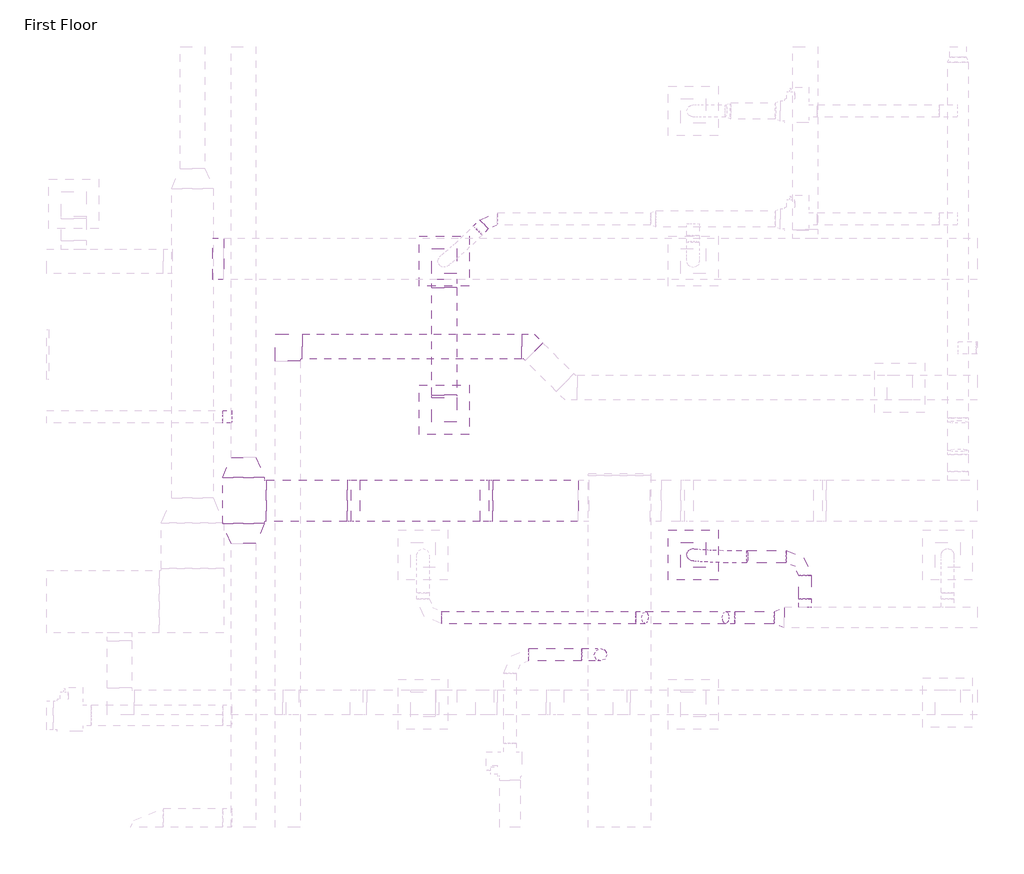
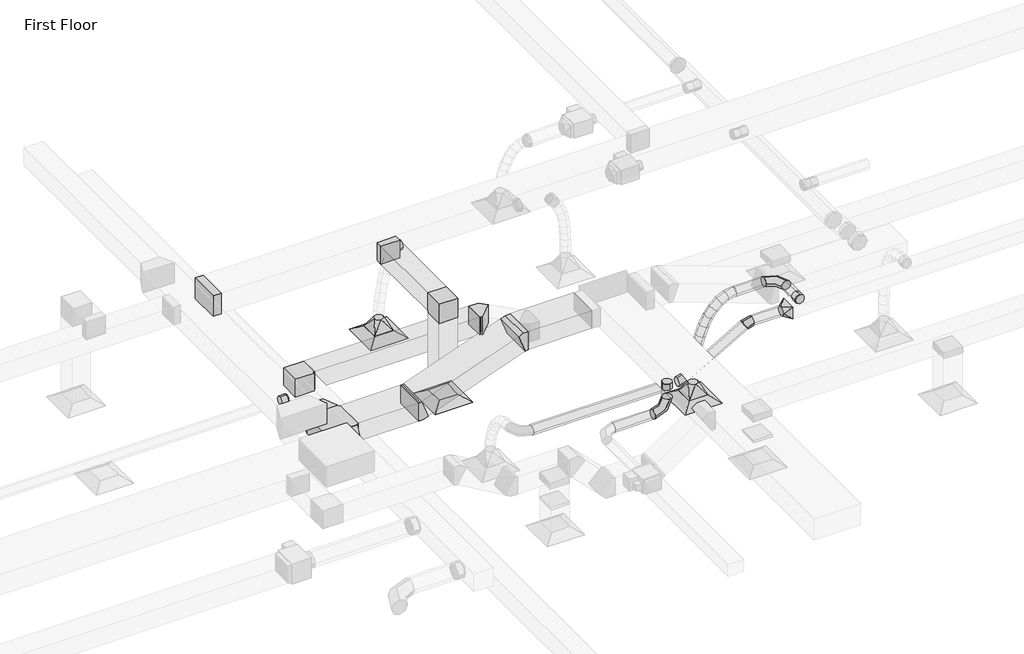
# One storey, part 40 of 61: 21 duct fittings, 15 duct segments, 3 air terminals.
"""IFC4 building model written with IfcOpenShell, lengths in millimetres."""

from ifc_helpers import new_model, si_unit, point, frame, frame_2d, origin, place, context, project, spatial, polyline, circle_curve, ellipse_curve, trimmed, segment, composite_curve, outline, extrude, transform, mapped, element, save
from ifc_brep_helpers import plane_surface, cylinder_surface, advanced_brep
from components import m_exhaust_grill_er_600_x_600_face_300_x_300_connection_ff221211, m_rectangular_elbow_mitered_standard_b81e202c, m_rectangular_elbow_mitered_standard_8eee5933, m_rectangular_elbow_mitered_standard_04b63b93, m_rectangular_takeoff_standard_c00386d1, m_rectangular_takeoff_standard_f515ab57, m_rectangular_tee_standard_99a5f8b8, m_rectangular_transition_angle_45_degree_742563a0, m_rectangular_transition_angle_45_degree_78177127, m_rectangular_to_round_transition_angle_45_degree_8f201c83, m_rectangular_to_round_transition_angle_45_degree_c3b12eae, m_round_elbow_1_5_d_fa134dda, m_round_elbow_1_5_d_2e586196, m_round_elbow_1_5_d_5294a869, m_round_takeoff_standard_d02f3bf7, m_round_takeoff_standard_2721f8a4, m_round_takeoff_standard_a4207b6c

model = new_model("IFC4")

# Units and contexts
model_context = context("Model", 3, world=origin())
ifc_project = project(units=[si_unit("LENGTHUNIT", "METRE", prefix="MILLI")], contexts=[model_context])

# Site, building, storey
site = spatial("IfcSite", under=ifc_project)
building = spatial("IfcBuilding", under=site)
storey = spatial("IfcBuildingStorey", under=building, Name="First Floor", Elevation=0.0)

# Air terminals
placement = place(None, origin())
m_exhaust_grill_er_600_x_600_face_300_x_300_connection_shape = m_exhaust_grill_er_600_x_600_face_300_x_300_connection_ff221211(model_context)
element("IfcAirTerminal", 1, ObjectType="M_Return Register : RR-600 x 600 Face 300 x 300 Connection", at=placement, inside=storey, context=model_context, shape_type="MappedRepresentation", body=[
    mapped(m_exhaust_grill_er_600_x_600_face_300_x_300_connection_shape, transform((-37103.6005714, 45392.7806178, 2680.0), x_axis=(1.0, 0.0, 0.0), y_axis=(0.0, 1.0, 0.0), z_axis=(0.0, 0.0, 1.0))),
])
element("IfcAirTerminal", 2, ObjectType="M_Supply Diffuser : SD-600 x 600 Face 300 x 300 Connection", at=placement, inside=storey, context=model_context, shape_type="MappedRepresentation", body=[
    mapped(m_exhaust_grill_er_600_x_600_face_300_x_300_connection_shape, transform((-37103.6005714, 47182.8147474, 2680.0), x_axis=(1.0, 0.0, 0.0), y_axis=(0.0, 1.0, 0.0), z_axis=(0.0, 0.0, 1.0))),
])
element("IfcAirTerminal", 3, ObjectType="M_Supply Diffuser : SD-600 x 600 Face 300 x 300 Connection", at=placement, inside=storey, context=model_context, shape_type="MappedRepresentation", body=[
    mapped(m_exhaust_grill_er_600_x_600_face_300_x_300_connection_shape, transform((-34106.7085824, 43646.5953777, 2680.0), x_axis=(1.0, 0.0, 0.0), y_axis=(0.0, 1.0, 0.0), z_axis=(0.0, 0.0, 1.0))),
])

# Duct fittings
m_rectangular_elbow_mitered_standard_shape = m_rectangular_elbow_mitered_standard_b81e202c(model_context)
element("IfcDuctFitting", 4, ObjectType="M_Rectangular Elbow - Mitered : Standard", at=placement, inside=storey, context=model_context, shape_type="MappedRepresentation", body=[
    mapped(m_rectangular_elbow_mitered_standard_shape, transform((-36081.3696001, 46153.353423, 3200.0), x_axis=(-0.7071067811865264, 0.7071067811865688, 0.0), y_axis=(-0.7071067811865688, -0.7071067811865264, 0.0), z_axis=(0.0, 0.0, 1.0))),
])
m_rectangular_elbow_mitered_standard_2_shape = m_rectangular_elbow_mitered_standard_8eee5933(model_context)
element("IfcDuctFitting", 5, ObjectType="M_Rectangular Elbow - Mitered : Standard", at=placement, inside=storey, context=model_context, shape_type="MappedRepresentation", body=[
    mapped(m_rectangular_elbow_mitered_standard_2_shape, transform((-37103.6005714, 45392.7806178, 4259.5), x_axis=(0.0, 0.0, 1.0), y_axis=(0.0, 1.0, 0.0), z_axis=(-1.0, 0.0, 0.0))),
])
element("IfcDuctFitting", 6, ObjectType="M_Rectangular Elbow - Mitered : Standard", at=placement, inside=storey, context=model_context, shape_type="MappedRepresentation", body=[
    mapped(m_rectangular_elbow_mitered_standard_2_shape, transform((-38985.9613903, 46153.353423, 3200.0), x_axis=(-1.0, 0.0, 0.0), y_axis=(0.0, -1.0, 0.0), z_axis=(0.0, 0.0, 1.0))),
])
m_rectangular_elbow_mitered_standard_3_shape = m_rectangular_elbow_mitered_standard_04b63b93(model_context)
element("IfcDuctFitting", 7, ObjectType="M_Rectangular Elbow - Mitered : Standard", at=placement, inside=storey, context=model_context, shape_type="MappedRepresentation", body=[
    mapped(m_rectangular_elbow_mitered_standard_3_shape, transform((-38217.6187402, 44299.674982, 3659.5), x_axis=(1.0, 0.0, 0.0), y_axis=(0.0, 0.0, 1.0), z_axis=(0.0, -1.0, 0.0))),
])
element("IfcDuctFitting", 8, ObjectType="M_Rectangular Elbow - Mitered : Standard", at=placement, inside=storey, context=model_context, shape_type="MappedRepresentation", body=[
    mapped(m_rectangular_elbow_mitered_standard_3_shape, transform((-36569.1322885, 44299.674982, 4259.5), x_axis=(0.9396926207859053, 0.0, 0.3420201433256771), y_axis=(0.3420201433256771, 0.0, -0.9396926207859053), z_axis=(0.0, 1.0, 0.0))),
])
m_rectangular_takeoff_standard_shape = m_rectangular_takeoff_standard_c00386d1(model_context)
element("IfcDuctFitting", 9, ObjectType="M_Rectangular Takeoff : Standard", at=placement, inside=storey, context=model_context, shape_type="MappedRepresentation", body=[
    mapped(m_rectangular_takeoff_standard_shape, transform((-37103.6005714, 46961.3321421, 4259.5), x_axis=(0.0, -1.0, 0.0), y_axis=(-1.0, 0.0, 0.0), z_axis=(0.0, 0.0, -1.0))),
])
m_rectangular_takeoff_standard_2_shape = m_rectangular_takeoff_standard_f515ab57(model_context)
element("IfcDuctFitting", 10, ObjectType="M_Rectangular Takeoff : Standard", at=placement, inside=storey, context=model_context, shape_type="MappedRepresentation", body=[
    mapped(m_rectangular_takeoff_standard_2_shape, transform((-39881.0542232, 47211.3321421, 4259.5), x_axis=(1.0, 0.0, 0.0), y_axis=(0.0, -1.0, 0.0), z_axis=(0.0, 0.0, -1.0))),
])
m_rectangular_tee_standard_shape = m_rectangular_tee_standard_99a5f8b8(model_context)
element("IfcDuctFitting", 11, ObjectType="M_Rectangular Tee : Standard", at=placement, inside=storey, context=model_context, shape_type="MappedRepresentation", body=[
    mapped(m_rectangular_tee_standard_shape, transform((-39517.6187402, 44299.674982, 3659.5), x_axis=(0.0, 1.0, 0.0), y_axis=(-1.0, 0.0, 0.0), z_axis=(0.0, 0.0, 1.0))),
])
m_rectangular_transition_angle_45_degree_shape = m_rectangular_transition_angle_45_degree_742563a0(model_context)
element("IfcDuctFitting", 12, ObjectType="M_Rectangular Transition - Angle : 45 Degree", at=placement, inside=storey, context=model_context, shape_type="MappedRepresentation", body=[
    mapped(m_rectangular_transition_angle_45_degree_shape, transform((-39517.6187402, 44816.0963383, 3659.5), x_axis=(0.0, -1.0, 0.0), y_axis=(1.0, 0.0, 0.0), z_axis=(0.0, 0.0, 1.0))),
])
m_rectangular_transition_angle_45_degree_2_shape = m_rectangular_transition_angle_45_degree_78177127(model_context)
element("IfcDuctFitting", 13, ObjectType="M_Rectangular Transition - Angle : 45 Degree", at=placement, inside=storey, context=model_context, shape_type="MappedRepresentation", body=[
    mapped(m_rectangular_transition_angle_45_degree_2_shape, transform((-39517.6187402, 44024.674982, 3659.5), x_axis=(0.0, -1.0, 0.0), y_axis=(1.0, 0.0, 0.0), z_axis=(0.0, 0.0, 1.0))),
])
m_rectangular_to_round_transition_angle_45_degree_shape = m_rectangular_to_round_transition_angle_45_degree_8f201c83(model_context)
element("IfcDuctFitting", 14, ObjectType="M_Rectangular to Round Transition - Angle : 45 Degree", at=placement, inside=storey, context=model_context, shape_type="MappedRepresentation", body=[
    mapped(m_rectangular_to_round_transition_angle_45_degree_shape, transform((-37103.6005714, 47182.8147474, 2781.6), x_axis=(0.0, 0.0, 1.0), y_axis=(1.0, 0.0, 0.0), z_axis=(0.0, 1.0, 0.0))),
])
element("IfcDuctFitting", 15, ObjectType="M_Rectangular to Round Transition - Angle : 45 Degree", at=placement, inside=storey, context=model_context, shape_type="MappedRepresentation", body=[
    mapped(m_rectangular_to_round_transition_angle_45_degree_shape, transform((-34106.7085824, 43646.5953777, 2781.6), x_axis=(0.0, 0.0, 1.0), y_axis=(1.0, 0.0, 0.0), z_axis=(0.0, 1.0, 0.0))),
])
m_rectangular_to_round_transition_angle_45_degree_2_shape = m_rectangular_to_round_transition_angle_45_degree_c3b12eae(model_context)
element("IfcDuctFitting", 16, ObjectType="M_Rectangular to Round Transition - Angle : 45 Degree", at=placement, inside=storey, context=model_context, shape_type="MappedRepresentation", body=[
    mapped(m_rectangular_to_round_transition_angle_45_degree_2_shape, transform((-33011.0242719, 42891.9406833, 4279.0), x_axis=(-1.0, 0.0, 0.0), y_axis=(0.0, -1.0, 0.0), z_axis=(0.0, 0.0, 1.0))),
])
m_round_elbow_1_5_d_shape = m_round_elbow_1_5_d_fa134dda(model_context)
element("IfcDuctFitting", 17, ObjectType="M_Round Elbow : 1.5 D", at=placement, inside=storey, context=model_context, shape_type="MappedRepresentation", body=[
    mapped(m_round_elbow_1_5_d_shape, transform((-36556.9170835, 47690.9394014, 3669.2), x_axis=(-1.0, 0.0, 0.0), y_axis=(0.0, -1.0, 0.0), z_axis=(0.0, 0.0, 1.0))),
])
m_round_elbow_1_5_d_2_shape = m_round_elbow_1_5_d_2e586196(model_context)
element("IfcDuctFitting", 18, ObjectType="M_Round Elbow : 1.5 D", at=placement, inside=storey, context=model_context, shape_type="MappedRepresentation", body=[
    mapped(m_round_elbow_1_5_d_2_shape, transform((-35219.7384631, 42443.2870823, 3609.5), x_axis=(1.0, 0.0, 0.0), y_axis=(0.0, 0.0, 1.0), z_axis=(0.0, -1.0, 0.0))),
])
element("IfcDuctFitting", 19, ObjectType="M_Round Elbow : 1.5 D", at=placement, inside=storey, context=model_context, shape_type="MappedRepresentation", body=[
    mapped(m_round_elbow_1_5_d_2_shape, transform((-32760.7363091, 43623.6954017, 4279.0), x_axis=(0.0, 1.0, 0.0), y_axis=(-1.0, 0.0, 0.0), z_axis=(0.0, 0.0, 1.0))),
])
m_round_elbow_1_5_d_3_shape = m_round_elbow_1_5_d_5294a869(model_context)
element("IfcDuctFitting", 20, ObjectType="M_Round Elbow : 1.5 D", at=placement, inside=storey, context=model_context, shape_type="MappedRepresentation", body=[
    mapped(m_round_elbow_1_5_d_3_shape, transform((-34737.0449113, 42891.9406833, 3659.5), x_axis=(1.0, 0.0, 0.0), y_axis=(0.0, 0.0, 1.0), z_axis=(0.0, -1.0, 0.0))),
])
element("IfcDuctFitting", 21, ObjectType="M_Round Elbow : 1.5 D", at=placement, inside=storey, context=model_context, shape_type="MappedRepresentation", body=[
    mapped(m_round_elbow_1_5_d_3_shape, transform((-33664.039436, 42891.9406833, 4279.0), x_axis=(0.8660254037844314, 0.0, 0.5000000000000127), y_axis=(0.5000000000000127, 0.0, -0.8660254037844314), z_axis=(0.0, 1.0, 0.0))),
])
m_round_takeoff_standard_shape = m_round_takeoff_standard_d02f3bf7(model_context)
element("IfcDuctFitting", 22, ObjectType="M_Round Takeoff : Standard", at=placement, inside=storey, context=model_context, shape_type="MappedRepresentation", body=[
    mapped(m_round_takeoff_standard_shape, transform((-32760.7363091, 43016.9406833, 4279.0), x_axis=(0.0, 1.0, 0.0), y_axis=(1.0, 0.0, 0.0), z_axis=(0.0, 0.0, -1.0))),
])
m_round_takeoff_standard_2_shape = m_round_takeoff_standard_2721f8a4(model_context)
element("IfcDuctFitting", 23, ObjectType="M_Round Takeoff : Standard", at=placement, inside=storey, context=model_context, shape_type="MappedRepresentation", body=[
    mapped(m_round_takeoff_standard_2_shape, transform((-35219.7384631, 42443.2870823, 4084.5), x_axis=(0.0, 0.0, -1.0), y_axis=(0.0, 1.0, 0.0), z_axis=(1.0, 0.0, 0.0))),
])
m_round_takeoff_standard_3_shape = m_round_takeoff_standard_a4207b6c(model_context)
element("IfcDuctFitting", 24, ObjectType="M_Round Takeoff : Standard", at=placement, inside=storey, context=model_context, shape_type="MappedRepresentation", body=[
    mapped(m_round_takeoff_standard_3_shape, transform((-39667.6187402, 45310.3131718, 3609.4985331), x_axis=(-0.9999999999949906, 0.0, 3.165257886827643e-06), y_axis=(0.0, 1.0, 0.0), z_axis=(-3.165257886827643e-06, 0.0, -0.9999999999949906))),
])

# Duct segments
element("IfcDuctSegment", 25, ObjectType="Flex - Round", at=placement, inside=storey, context=model_context, shape_type="AdvancedBrep", body=[
    advanced_brep(
    [(-33461.0557501, 43548.696082, 4279.0), (-33449.1152555, 43623.6459047, 4204.9058122), (-33460.4168682, 43698.6947214, 4279.0), (-33472.3573628, 43623.7448987, 4353.0941878), (-33586.5870372, 43549.2307513, 4259.3111103), (-33562.6597022, 43624.129519, 4187.0969923), (-33585.3323539, 43699.2267678, 4259.4076954), (-33609.2596889, 43624.3280001, 4331.6218134), (-34108.3082389, 43571.6128174, 2962.4277969), (-34181.6608684, 43648.1875598, 2964.8153826), (-34105.1089259, 43721.577938, 2962.9042374), (-34031.7562963, 43645.0031956, 2960.5166518), (-33696.6483964, 43550.6998305, 4203.6421784), (-33652.6313724, 43625.3304447, 4141.5894062), (-33694.3978152, 43700.682554, 4204.2424876), (-33738.4148393, 43626.0519398, 4266.2952599), (-33791.6445696, 43552.891938, 4117.4280164), (-33734.0625792, 43627.2095305, 4067.6861844), (-33788.7820098, 43702.8605396, 4118.5837293), (-33846.3640002, 43628.5429471, 4168.3255612), (-33872.404821, 43555.5983834, 4006.0132839), (-33806.7277715, 43629.6446935, 3967.4391838), (-33869.229173, 43705.5564928, 4007.6009252), (-33934.9062224, 43631.5101827, 4046.1750252), (-33939.7766464, 43558.6123094, 3874.6770312), (-33869.4381682, 43632.4500872, 3845.1900322), (-33936.4653083, 43708.5643486, 3876.5291899), (-34006.8037865, 43634.7265708, 3906.016189), (-33994.5876837, 43561.7275695, 3728.6715275), (-33921.5430221, 43635.4115377, 3706.3932528), (-33991.2362777, 43711.6773314, 3730.6304189), (-34064.2809393, 43637.9933632, 3752.9086935), (-34037.6472392, 43564.7380954, 3573.2471724), (-33962.9993062, 43638.3099702, 3556.7559391), (-34034.3062741, 43714.6885873, 3575.1683771), (-34108.9542071, 43641.1167124, 3591.6596105), (-34069.7542156, 43567.4377541, 3413.6610637), (-33994.142851, 43640.9286204, 3401.9585189), (-34066.4498945, 43717.3913271, 3415.4001315), (-34142.0612591, 43643.9004607, 3427.1026763), (-34091.7027118, 43569.6204066, 3255.1808205), (-34015.5180433, 43643.0542611, 3247.6178453), (-34088.4465394, 43719.5787677, 3256.5722277), (-34164.6312079, 43646.1449131, 3264.1352028), (-34104.2858503, 43571.0801185, 3103.0904178), (-34027.7869009, 43644.4775148, 3099.326107), (-34101.076586, 43721.0439212, 3103.9148552), (-34177.5755354, 43647.6465249, 3107.679166)],
    [
        (0, 1, circle_curve(frame((-33460.7363091, 43623.6954017, 4279.0), z_axis=(0.987913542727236, -0.0042077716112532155, 0.15494878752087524), x_axis=(-0.004259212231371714, -0.9999909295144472, 0.0)), 75.0)),
        (1, 2, circle_curve(frame((-33460.7363091, 43623.6954017, 4279.0), z_axis=(0.987913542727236, -0.0042077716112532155, 0.15494878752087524), x_axis=(-0.004259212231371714, -0.9999909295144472, 0.0)), 75.0)),
        (2, 3, circle_curve(frame((-33460.7363091, 43623.6954017, 4279.0), z_axis=(0.987913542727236, -0.0042077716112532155, 0.15494878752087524), x_axis=(-0.004259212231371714, -0.9999909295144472, 0.0)), 75.0)),
        (3, 0, circle_curve(frame((-33460.7363091, 43623.6954017, 4279.0), z_axis=(0.987913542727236, -0.0042077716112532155, 0.15494878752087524), x_axis=(-0.004259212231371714, -0.9999909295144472, 0.0)), 75.0)),
        (0, 4),
        (4, 5, ellipse_curve(frame((-33585.9596956, 43624.2287595, 4259.3594029), z_axis=(0.9517139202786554, -0.00815847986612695, 0.3068779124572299), x_axis=(0.30698629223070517, 0.024725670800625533, -0.951392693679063)), 75.9266268, 75.0)),
        (5, 1),
        (5, 6, ellipse_curve(frame((-33585.9596956, 43624.2287595, 4259.3594029), z_axis=(0.9517139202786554, -0.00815847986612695, 0.3068779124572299), x_axis=(0.30698629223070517, 0.024725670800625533, -0.951392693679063)), 75.9266268, 75.0)),
        (6, 2),
        (6, 7, ellipse_curve(frame((-33585.9596956, 43624.2287595, 4259.3594029), z_axis=(0.9517139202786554, -0.00815847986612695, 0.3068779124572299), x_axis=(0.30698629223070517, 0.024725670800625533, -0.951392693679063)), 75.9266268, 75.0)),
        (7, 3),
        (7, 4, ellipse_curve(frame((-33585.9596956, 43624.2287595, 4259.3594029), z_axis=(0.9517139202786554, -0.00815847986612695, 0.3068779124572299), x_axis=(0.30698629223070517, 0.024725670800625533, -0.951392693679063)), 75.9266268, 75.0)),
        (8, 9, circle_curve(frame((-34106.7085824, 43646.5953777, 2962.6660172), z_axis=(-0.028584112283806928, 0.0037854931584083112, -0.9995842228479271), x_axis=(-0.021328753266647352, -0.9997674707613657, -0.0031762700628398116)), 75.0)),
        (9, 10, circle_curve(frame((-34106.7085824, 43646.5953777, 2962.6660172), z_axis=(-0.028584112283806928, 0.0037854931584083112, -0.9995842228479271), x_axis=(-0.021328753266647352, -0.9997674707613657, -0.0031762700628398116)), 75.0)),
        (10, 11, circle_curve(frame((-34106.7085824, 43646.5953777, 2962.6660172), z_axis=(-0.028584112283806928, 0.0037854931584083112, -0.9995842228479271), x_axis=(-0.021328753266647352, -0.9997674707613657, -0.0031762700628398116)), 75.0)),
        (11, 8, circle_curve(frame((-34106.7085824, 43646.5953777, 2962.6660172), z_axis=(-0.028584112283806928, 0.0037854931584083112, -0.9995842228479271), x_axis=(-0.021328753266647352, -0.9997674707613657, -0.0031762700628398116)), 75.0)),
        (4, 12),
        (12, 13, ellipse_curve(frame((-33695.5231058, 43625.6911923, 4203.942333), z_axis=(0.8237655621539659, -0.014629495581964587, 0.5667418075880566), x_axis=(0.5669295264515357, 0.01931686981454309, -0.8235397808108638)), 75.6820925, 75.0)),
        (13, 5),
        (13, 14, ellipse_curve(frame((-33695.5231058, 43625.6911923, 4203.942333), z_axis=(0.8237655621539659, -0.014629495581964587, 0.5667418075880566), x_axis=(0.5669295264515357, 0.01931686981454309, -0.8235397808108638)), 75.6820925, 75.0)),
        (14, 6),
        (14, 15, ellipse_curve(frame((-33695.5231058, 43625.6911923, 4203.942333), z_axis=(0.8237655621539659, -0.014629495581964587, 0.5667418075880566), x_axis=(0.5669295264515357, 0.01931686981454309, -0.8235397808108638)), 75.6820925, 75.0)),
        (15, 7),
        (15, 12, ellipse_curve(frame((-33695.5231058, 43625.6911923, 4203.942333), z_axis=(0.8237655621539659, -0.014629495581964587, 0.5667418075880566), x_axis=(0.5669295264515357, 0.01931686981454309, -0.8235397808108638)), 75.6820925, 75.0)),
        (12, 16),
        (16, 17, ellipse_curve(frame((-33790.2132897, 43627.8762388, 4118.0058728), z_axis=(0.6671452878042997, -0.01847320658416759, 0.7446985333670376), x_axis=(0.7449215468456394, 0.012506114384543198, -0.6670348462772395)), 75.4018945, 75.0)),
        (17, 13),
        (17, 18, ellipse_curve(frame((-33790.2132897, 43627.8762388, 4118.0058728), z_axis=(0.6671452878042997, -0.01847320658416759, 0.7446985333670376), x_axis=(0.7449215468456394, 0.012506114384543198, -0.6670348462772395)), 75.4018945, 75.0)),
        (18, 14),
        (18, 19, ellipse_curve(frame((-33790.2132897, 43627.8762388, 4118.0058728), z_axis=(0.6671452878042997, -0.01847320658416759, 0.7446985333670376), x_axis=(0.7449215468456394, 0.012506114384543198, -0.6670348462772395)), 75.4018945, 75.0)),
        (19, 15),
        (19, 16, ellipse_curve(frame((-33790.2132897, 43627.8762388, 4118.0058728), z_axis=(0.6671452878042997, -0.01847320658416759, 0.7446985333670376), x_axis=(0.7449215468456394, 0.012506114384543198, -0.6670348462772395)), 75.4018945, 75.0)),
        (16, 20),
        (20, 21, ellipse_curve(frame((-33870.816997, 43630.5774381, 4006.8071045), z_axis=(0.5230886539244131, -0.020098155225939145, 0.8520412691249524), x_axis=(0.8522547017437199, 0.004899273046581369, -0.5231041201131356)), 75.2206221, 75.0)),
        (21, 17),
        (21, 22, ellipse_curve(frame((-33870.816997, 43630.5774381, 4006.8071045), z_axis=(0.5230886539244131, -0.020098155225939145, 0.8520412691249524), x_axis=(0.8522547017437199, 0.004899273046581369, -0.5231041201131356)), 75.2206221, 75.0)),
        (22, 18),
        (22, 23, ellipse_curve(frame((-33870.816997, 43630.5774381, 4006.8071045), z_axis=(0.5230886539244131, -0.020098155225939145, 0.8520412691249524), x_axis=(0.8522547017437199, 0.004899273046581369, -0.5231041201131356)), 75.2206221, 75.0)),
        (23, 19),
        (23, 20, ellipse_curve(frame((-33870.816997, 43630.5774381, 4006.8071045), z_axis=(0.5230886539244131, -0.020098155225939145, 0.8520412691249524), x_axis=(0.8522547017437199, 0.004899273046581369, -0.5231041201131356)), 75.2206221, 75.0)),
        (20, 24),
        (24, 25, ellipse_curve(frame((-33938.1209774, 43633.588329, 3875.6031106), z_axis=(0.4045230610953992, -0.02022612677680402, 0.914304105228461), x_axis=(0.9144527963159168, -0.0038578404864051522, -0.40467419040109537)), 75.1237751, 75.0)),
        (25, 21),
        (25, 26, ellipse_curve(frame((-33938.1209774, 43633.588329, 3875.6031106), z_axis=(0.4045230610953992, -0.02022612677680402, 0.914304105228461), x_axis=(0.9144527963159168, -0.0038578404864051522, -0.40467419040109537)), 75.1237751, 75.0)),
        (26, 22),
        (26, 27, ellipse_curve(frame((-33938.1209774, 43633.588329, 3875.6031106), z_axis=(0.4045230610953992, -0.02022612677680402, 0.914304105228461), x_axis=(0.9144527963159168, -0.0038578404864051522, -0.40467419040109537)), 75.1237751, 75.0)),
        (27, 23),
        (27, 24, ellipse_curve(frame((-33938.1209774, 43633.588329, 3875.6031106), z_axis=(0.4045230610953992, -0.02022612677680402, 0.914304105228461), x_axis=(0.9144527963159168, -0.0038578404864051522, -0.40467419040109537)), 75.1237751, 75.0)),
        (24, 28),
        (28, 29, ellipse_curve(frame((-33992.9119807, 43636.7024504, 3729.6509732), z_axis=(0.30946865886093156, -0.019336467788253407, 0.9507130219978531), x_axis=(0.9506994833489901, -0.014727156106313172, -0.30976378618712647)), 75.0740723, 75.0)),
        (29, 25),
        (29, 30, ellipse_curve(frame((-33992.9119807, 43636.7024504, 3729.6509732), z_axis=(0.30946865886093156, -0.019336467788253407, 0.9507130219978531), x_axis=(0.9506994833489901, -0.014727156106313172, -0.30976378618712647)), 75.0740723, 75.0)),
        (30, 26),
        (30, 31, ellipse_curve(frame((-33992.9119807, 43636.7024504, 3729.6509732), z_axis=(0.30946865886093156, -0.019336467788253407, 0.9507130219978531), x_axis=(0.9506994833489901, -0.014727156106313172, -0.30976378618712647)), 75.0740723, 75.0)),
        (31, 27),
        (31, 28, ellipse_curve(frame((-33992.9119807, 43636.7024504, 3729.6509732), z_axis=(0.30946865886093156, -0.019336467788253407, 0.9507130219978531), x_axis=(0.9506994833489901, -0.014727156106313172, -0.30976378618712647)), 75.0740723, 75.0)),
        (28, 32),
        (32, 33, ellipse_curve(frame((-34035.9767566, 43639.7133413, 3574.2077748), z_axis=(0.23222517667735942, -0.01763403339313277, 0.972502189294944), x_axis=(0.9721249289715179, -0.029015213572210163, -0.23266121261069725)), 75.0482849, 75.0)),
        (33, 29),
        (33, 34, ellipse_curve(frame((-34035.9767566, 43639.7133413, 3574.2077748), z_axis=(0.23222517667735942, -0.01763403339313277, 0.972502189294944), x_axis=(0.9721249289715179, -0.029015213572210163, -0.23266121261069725)), 75.0482849, 75.0)),
        (34, 30),
        (34, 35, ellipse_curve(frame((-34035.9767566, 43639.7133413, 3574.2077748), z_axis=(0.23222517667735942, -0.01763403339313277, 0.972502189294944), x_axis=(0.9721249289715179, -0.029015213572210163, -0.23266121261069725)), 75.0482849, 75.0)),
        (35, 31),
        (35, 32, ellipse_curve(frame((-34035.9767566, 43639.7133413, 3574.2077748), z_axis=(0.23222517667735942, -0.01763403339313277, 0.972502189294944), x_axis=(0.9721249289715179, -0.029015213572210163, -0.23266121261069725)), 75.0482849, 75.0)),
        (32, 36),
        (36, 37, ellipse_curve(frame((-34068.102055, 43642.4145406, 3414.5305976), z_axis=(0.16726834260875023, -0.015118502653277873, 0.9857954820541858), x_axis=(0.9846383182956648, -0.04823485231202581, -0.16781174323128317)), 75.0348801, 75.0)),
        (37, 33),
        (37, 38, ellipse_curve(frame((-34068.102055, 43642.4145406, 3414.5305976), z_axis=(0.16726834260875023, -0.015118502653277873, 0.9857954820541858), x_axis=(0.9846383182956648, -0.04823485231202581, -0.16781174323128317)), 75.0348801, 75.0)),
        (38, 34),
        (38, 39, ellipse_curve(frame((-34068.102055, 43642.4145406, 3414.5305976), z_axis=(0.16726834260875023, -0.015118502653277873, 0.9857954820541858), x_axis=(0.9846383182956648, -0.04823485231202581, -0.16781174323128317)), 75.0348801, 75.0)),
        (39, 35),
        (39, 36, ellipse_curve(frame((-34068.102055, 43642.4145406, 3414.5305976), z_axis=(0.16726834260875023, -0.015118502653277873, 0.9857954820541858), x_axis=(0.9846383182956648, -0.04823485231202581, -0.16781174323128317)), 75.0348801, 75.0)),
        (36, 40),
        (40, 41, ellipse_curve(frame((-34090.0746256, 43644.5995871, 3255.8765241), z_axis=(0.10985214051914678, -0.011607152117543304, 0.9938801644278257), x_axis=(0.991139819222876, -0.07383195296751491, -0.11041150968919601)), 75.0285943, 75.0)),
        (41, 37),
        (41, 42, ellipse_curve(frame((-34090.0746256, 43644.5995871, 3255.8765241), z_axis=(0.10985214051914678, -0.011607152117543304, 0.9938801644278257), x_axis=(0.991139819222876, -0.07383195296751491, -0.11041150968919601)), 75.0285943, 75.0)),
        (42, 38),
        (42, 43, ellipse_curve(frame((-34090.0746256, 43644.5995871, 3255.8765241), z_axis=(0.10985214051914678, -0.011607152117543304, 0.9938801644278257), x_axis=(0.991139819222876, -0.07383195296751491, -0.11041150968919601)), 75.0285943, 75.0)),
        (43, 39),
        (43, 40, ellipse_curve(frame((-34090.0746256, 43644.5995871, 3255.8765241), z_axis=(0.10985214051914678, -0.011607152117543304, 0.9938801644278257), x_axis=(0.991139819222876, -0.07383195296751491, -0.11041150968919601)), 75.0285943, 75.0)),
        (40, 44),
        (44, 45, ellipse_curve(frame((-34102.6812181, 43646.0620199, 3103.5026365), z_axis=(0.05553705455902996, -0.006677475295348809, 0.9984342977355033), x_axis=(0.9927373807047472, -0.10650844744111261, -0.05593249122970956)), 75.0276157, 75.0)),
        (45, 41),
        (45, 46, ellipse_curve(frame((-34102.6812181, 43646.0620199, 3103.5026365), z_axis=(0.05553705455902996, -0.006677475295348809, 0.9984342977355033), x_axis=(0.9927373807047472, -0.10650844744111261, -0.05593249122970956)), 75.0276157, 75.0)),
        (46, 42),
        (46, 47, ellipse_curve(frame((-34102.6812181, 43646.0620199, 3103.5026365), z_axis=(0.05553705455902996, -0.006677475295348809, 0.9984342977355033), x_axis=(0.9927373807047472, -0.10650844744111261, -0.05593249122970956)), 75.0276157, 75.0)),
        (47, 43),
        (47, 44, ellipse_curve(frame((-34102.6812181, 43646.0620199, 3103.5026365), z_axis=(0.05553705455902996, -0.006677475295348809, 0.9984342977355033), x_axis=(0.9927373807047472, -0.10650844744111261, -0.05593249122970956)), 75.0276157, 75.0)),
        (44, 8),
        (11, 45),
        (10, 46),
        (9, 47),
    ],
    [
        plane_surface(frame((-33460.7363091, 43698.6677629, 4281.0359409), z_axis=(0.987913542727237, -0.00420777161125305, 0.15494878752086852), x_axis=(0.15500590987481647, 0.02681778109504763, -0.9875494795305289))),
        cylinder_surface(frame((-33460.7363091, 43623.6954017, 4279.0), z_axis=(0.987913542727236, -0.0042077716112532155, 0.15494878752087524), x_axis=(-0.004259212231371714, -0.9999909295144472, 0.0)), 75.0),
        plane_surface(frame((-34106.7085824, 43721.5948399, 2962.9500452), z_axis=(-0.028584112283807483, 0.003785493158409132, -0.9995842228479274), x_axis=(0.9995913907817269, 0.00010824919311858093, -0.0285839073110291))),
        cylinder_surface(frame((-33585.9596956, 43624.2287595, 4259.3594029), z_axis=(0.8922844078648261, -0.011910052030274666, 0.4513166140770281), x_axis=(-0.012072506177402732, -0.9999239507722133, -0.0025193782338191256)), 75.0),
        cylinder_surface(frame((-33695.5231058, 43625.6911923, 4203.942333), z_axis=(0.7403981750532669, -0.017085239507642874, 0.6719513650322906), x_axis=(-0.017436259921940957, -0.9998286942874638, -0.006209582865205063)), 75.0),
        cylinder_surface(frame((-33790.2132897, 43627.8762388, 4118.0058728), z_axis=(0.586780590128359, -0.01966424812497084, 0.8095071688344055), x_axis=(-0.02038938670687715, -0.9997469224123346, -0.009506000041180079)), 75.0),
        cylinder_surface(frame((-33870.816997, 43630.5774381, 4006.8071045), z_axis=(0.4563282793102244, -0.020414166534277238, 0.8895772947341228), x_axis=(-0.021778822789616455, -0.9996935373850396, -0.011769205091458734)), 75.0),
        cylinder_surface(frame((-33938.1209774, 43633.588329, 3875.6031106), z_axis=(0.3513848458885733, -0.019971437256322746, 0.9360180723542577), x_axis=(-0.022304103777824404, -0.9996672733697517, -0.012956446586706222)), 75.0),
        cylinder_surface(frame((-33992.9119807, 43636.7024504, 3729.6509732), z_axis=(0.26694179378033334, -0.018663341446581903, 0.9635319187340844), x_axis=(-0.02237203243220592, -0.9996630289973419, -0.01316512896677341)), 75.0),
        cylinder_surface(frame((-34035.9767566, 43639.7133413, 3574.2077748), z_axis=(0.19720973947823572, -0.01658203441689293, 0.9802210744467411), x_axis=(-0.022200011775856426, -0.9996760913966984, -0.0124447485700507)), 75.0),
        cylinder_surface(frame((-34068.102055, 43642.4145406, 3414.5305976), z_axis=(0.1371714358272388, -0.01364091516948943, 0.9904533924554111), x_axis=(-0.02190972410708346, -0.9997023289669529, -0.010733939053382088)), 75.0),
        cylinder_surface(frame((-34090.0746256, 43644.5995871, 3255.8765241), z_axis=(0.08244911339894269, -0.009564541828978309, 0.9965493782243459), x_axis=(-0.021586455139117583, -0.9997364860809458, -0.007809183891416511)), 75.0),
        cylinder_surface(frame((-34102.6812181, 43646.0620199, 3103.5026365), z_axis=(0.028584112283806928, -0.0037854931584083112, 0.9995842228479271), x_axis=(-0.021328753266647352, -0.9997674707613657, -0.0031762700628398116)), 75.0),
    ],
    [
        (0, [[1, 2, 3, 4]]),
        (1, [[-1, 5, 6, 7]]),
        (1, [[-2, -7, 8, 9]]),
        (1, [[-3, -9, 10, 11]]),
        (1, [[-4, -11, 12, -5]]),
        (2, [[13, 14, 15, 16]]),
        (3, [[-6, 17, 18, 19]]),
        (3, [[-8, -19, 20, 21]]),
        (3, [[-10, -21, 22, 23]]),
        (3, [[-12, -23, 24, -17]]),
        (4, [[-18, 25, 26, 27]]),
        (4, [[-20, -27, 28, 29]]),
        (4, [[-22, -29, 30, 31]]),
        (4, [[-24, -31, 32, -25]]),
        (5, [[-26, 33, 34, 35]]),
        (5, [[-28, -35, 36, 37]]),
        (5, [[-30, -37, 38, 39]]),
        (5, [[-32, -39, 40, -33]]),
        (6, [[-34, 41, 42, 43]]),
        (6, [[-36, -43, 44, 45]]),
        (6, [[-38, -45, 46, 47]]),
        (6, [[-40, -47, 48, -41]]),
        (7, [[-42, 49, 50, 51]]),
        (7, [[-44, -51, 52, 53]]),
        (7, [[-46, -53, 54, 55]]),
        (7, [[-48, -55, 56, -49]]),
        (8, [[-50, 57, 58, 59]]),
        (8, [[-52, -59, 60, 61]]),
        (8, [[-54, -61, 62, 63]]),
        (8, [[-56, -63, 64, -57]]),
        (9, [[-58, 65, 66, 67]]),
        (9, [[-60, -67, 68, 69]]),
        (9, [[-62, -69, 70, 71]]),
        (9, [[-64, -71, 72, -65]]),
        (10, [[-66, 73, 74, 75]]),
        (10, [[-68, -75, 76, 77]]),
        (10, [[-70, -77, 78, 79]]),
        (10, [[-72, -79, 80, -73]]),
        (11, [[-74, 81, 82, 83]]),
        (11, [[-76, -83, 84, 85]]),
        (11, [[-78, -85, 86, 87]]),
        (11, [[-80, -87, 88, -81]]),
        (12, [[-82, 89, -16, 90]]),
        (12, [[-84, -90, -15, 91]]),
        (12, [[-86, -91, -14, 92]]),
        (12, [[-88, -92, -13, -89]]),
    ],
),
])
element("IfcDuctSegment", 26, ObjectType="Mitered Elbows / Taps", at=placement, inside=storey, context=model_context, shape_type="SweptSolid", body=[
    extrude(outline(polyline([(-38269.0677873, 44549.674982), (-38269.0677873, 44049.674982), (-39242.6187402, 44049.674982), (-39242.6187402, 44549.674982), (-38269.0677873, 44549.674982)])), frame((0.0, 0.0, 3509.5), z_axis=(0.0, 0.0, 1.0), x_axis=(1.0, 0.0, 0.0)), (0.0, 0.0, 1.0), 300.0),
])
element("IfcDuctSegment", 27, ObjectType="Mitered Elbows / Taps", at=placement, inside=storey, context=model_context, shape_type="SweptSolid", body=[
    extrude(outline(polyline([(0.0, -500.0), (0.0, 0.0), (1651.3845459, 0.0), (1651.3845459, -500.0), (0.0, -500.0)])), frame((-38117.9694288, 44549.674982, 3536.1427173), z_axis=(-0.3420201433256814, 0.0, 0.9396926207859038), x_axis=(0.9396926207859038, 0.0, 0.3420201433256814)), (0.0, 0.0, 1.0), 300.0),
])
element("IfcDuctSegment", 28, ObjectType="Mitered Elbows / Taps", at=placement, inside=storey, context=model_context, shape_type="SweptSolid", body=[
    extrude(outline(polyline([(-35491.1904063, 44549.674982), (-35491.1904063, 44049.674982), (-36517.6832414, 44049.674982), (-36517.6832414, 44549.674982), (-35491.1904063, 44549.674982)])), frame((0.0, 0.0, 4109.5), z_axis=(0.0, 0.0, 1.0), x_axis=(1.0, 0.0, 0.0)), (0.0, 0.0, 1.0), 300.0),
])
element("IfcDuctSegment", 29, ObjectType="Mitered Elbows / Taps", at=placement, inside=storey, context=model_context, shape_type="SweptSolid", body=[
    extrude(outline(polyline([(-36953.6005714, 45567.7806178), (-37253.6005714, 45567.7806178), (-37253.6005714, 46861.3321421), (-36953.6005714, 46861.3321421), (-36953.6005714, 45567.7806178)])), frame((0.0, 0.0, 4109.5), z_axis=(0.0, 0.0, 1.0), x_axis=(1.0, 0.0, 0.0)), (0.0, 0.0, 1.0), 300.0),
])
element("IfcDuctSegment", 30, ObjectType="Mitered Elbows / Taps", at=placement, inside=storey, context=model_context, shape_type="SweptSolid", body=[
    extrude(outline(polyline([(-37253.6005714, 45542.7806178), (-36953.6005714, 45542.7806178), (-36953.6005714, 45242.7806178), (-37253.6005714, 45242.7806178), (-37253.6005714, 45542.7806178)])), frame((0.0, 0.0, 2781.6), z_axis=(0.0, 0.0, 1.0), x_axis=(1.0, 0.0, 0.0)), (0.0, 0.0, 1.0), 1302.9),
])
element("IfcDuctSegment", 31, ObjectType="Mitered Elbows / Taps", at=placement, inside=storey, context=model_context, shape_type="SweptSolid", body=[
    extrude(outline(polyline([(-36168.5016344, 46303.353423), (-36168.5016344, 46003.353423), (-38810.9613903, 46003.353423), (-38810.9613903, 46303.353423), (-36168.5016344, 46303.353423)])), frame((0.0, 0.0, 3050.0), z_axis=(0.0, 0.0, 1.0), x_axis=(1.0, 0.0, 0.0)), (0.0, 0.0, 1.0), 300.0),
])
element("IfcDuctSegment", 32, ObjectType="Taps", at=placement, inside=storey, context=model_context, shape_type="SweptSolid", body=[
    extrude(outline(composite_curve([segment(trimmed(circle_curve(frame_2d((0.0, -75.0)), 75.0), [point((-75.0, -75.0))], [point((0.0, 0.0))], False, "CARTESIAN"), True, "CONTINUOUS"), segment(trimmed(circle_curve(frame_2d((0.0, -75.0)), 75.0), [point((0.0, 0.0))], [point((75.0, -75.0))], False, "CARTESIAN"), True, "CONTINUOUS"), segment(trimmed(circle_curve(frame_2d((0.0, -75.0)), 75.0), [point((75.0, -75.0))], [point((0.0, -150.0))], False, "CARTESIAN"), True, "CONTINUOUS"), segment(trimmed(circle_curve(frame_2d((0.0, -75.0)), 75.0), [point((0.0, -150.0))], [point((-75.0, -75.0))], False, "CARTESIAN"), True, "CONTINUOUS")], self_intersect=False)), frame((-36698.3384397, 47549.5180452, 3594.2), z_axis=(0.7071067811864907, 0.7071067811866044, 0.0), x_axis=(0.7071067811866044, -0.7071067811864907, 0.0)), (0.0, 0.0, 1.0), 106.8019485),
])
element("IfcDuctSegment", 33, ObjectType="Taps", at=placement, inside=storey, context=model_context, shape_type="SweptSolid", body=[
    extrude(outline(composite_curve([segment(trimmed(circle_curve(frame_2d((42443.2870823, 3609.5)), 75.0), [point((42368.2870823, 3609.5))], [point((42443.2870823, 3684.5))], False, "CARTESIAN"), True, "CONTINUOUS"), segment(trimmed(circle_curve(frame_2d((42443.2870823, 3609.5)), 75.0), [point((42443.2870823, 3684.5))], [point((42518.2870823, 3609.5))], False, "CARTESIAN"), True, "CONTINUOUS"), segment(trimmed(circle_curve(frame_2d((42443.2870823, 3609.5)), 75.0), [point((42518.2870823, 3609.5))], [point((42443.2870823, 3534.5))], False, "CARTESIAN"), True, "CONTINUOUS"), segment(trimmed(circle_curve(frame_2d((42443.2870823, 3609.5)), 75.0), [point((42443.2870823, 3534.5))], [point((42368.2870823, 3609.5))], False, "CARTESIAN"), True, "CONTINUOUS")], self_intersect=False)), frame((-36085.4908383, 0.0, 0.0), z_axis=(1.0, 0.0, 0.0), x_axis=(0.0, 1.0, 0.0)), (0.0, 0.0, 1.0), 640.7523752),
])
element("IfcDuctSegment", 34, ObjectType="Taps", at=placement, inside=storey, context=model_context, shape_type="SweptSolid", body=[
    extrude(outline(composite_curve([segment(trimmed(circle_curve(frame_2d((-35219.7384631, 42443.2870823)), 75.0), [point((-35219.7384631, 42518.2870823))], [point((-35144.7384631, 42443.2870823))], False, "CARTESIAN"), True, "CONTINUOUS"), segment(trimmed(circle_curve(frame_2d((-35219.7384631, 42443.2870823)), 75.0), [point((-35144.7384631, 42443.2870823))], [point((-35219.7384631, 42368.2870823))], False, "CARTESIAN"), True, "CONTINUOUS"), segment(trimmed(circle_curve(frame_2d((-35219.7384631, 42443.2870823)), 75.0), [point((-35219.7384631, 42368.2870823))], [point((-35294.7384631, 42443.2870823))], False, "CARTESIAN"), True, "CONTINUOUS"), segment(trimmed(circle_curve(frame_2d((-35219.7384631, 42443.2870823)), 75.0), [point((-35294.7384631, 42443.2870823))], [point((-35219.7384631, 42518.2870823))], False, "CARTESIAN"), True, "CONTINUOUS")], self_intersect=False)), frame((0.0, 0.0, 3834.5), z_axis=(0.0, 0.0, 1.0), x_axis=(1.0, 0.0, 0.0)), (0.0, 0.0, 1.0), 150.0),
])
element("IfcDuctSegment", 35, ObjectType="Taps", at=placement, inside=storey, context=model_context, shape_type="SweptSolid", body=[
    extrude(outline(composite_curve([segment(trimmed(circle_curve(frame_2d((42891.9406833, 3659.5)), 75.0), [point((42816.9406833, 3659.5))], [point((42891.9406833, 3734.5))], False, "CARTESIAN"), True, "CONTINUOUS"), segment(trimmed(circle_curve(frame_2d((42891.9406833, 3659.5)), 75.0), [point((42891.9406833, 3734.5))], [point((42966.9406833, 3659.5))], False, "CARTESIAN"), True, "CONTINUOUS"), segment(trimmed(circle_curve(frame_2d((42891.9406833, 3659.5)), 75.0), [point((42966.9406833, 3659.5))], [point((42891.9406833, 3584.5))], False, "CARTESIAN"), True, "CONTINUOUS"), segment(trimmed(circle_curve(frame_2d((42891.9406833, 3659.5)), 75.0), [point((42891.9406833, 3584.5))], [point((42816.9406833, 3659.5))], False, "CARTESIAN"), True, "CONTINUOUS")], self_intersect=False)), frame((-37132.0449113, 0.0, 0.0), z_axis=(1.0, 0.0, 0.0), x_axis=(0.0, 1.0, 0.0)), (0.0, 0.0, 1.0), 2334.7114317),
])
element("IfcDuctSegment", 36, ObjectType="Taps", at=placement, inside=storey, context=model_context, shape_type="SweptSolid", body=[
    extrude(outline(composite_curve([segment(trimmed(circle_curve(frame_2d((0.0, 75.0)), 75.0), [point((0.0, 0.0))], [point((-75.0, 75.0))], False, "CARTESIAN"), True, "CONTINUOUS"), segment(trimmed(circle_curve(frame_2d((0.0, 75.0)), 75.0), [point((-75.0, 75.0))], [point((0.0, 150.0))], False, "CARTESIAN"), True, "CONTINUOUS"), segment(trimmed(circle_curve(frame_2d((0.0, 75.0)), 75.0), [point((0.0, 150.0))], [point((74.9999999, 75.0))], False, "CARTESIAN"), True, "CONTINUOUS"), segment(trimmed(circle_curve(frame_2d((0.0, 75.0)), 75.0), [point((74.9999999, 75.0))], [point((0.0, 0.0))], False, "CARTESIAN"), True, "CONTINUOUS")], self_intersect=False)), frame((-34684.8334796, 42816.9406833, 3689.6442841), z_axis=(0.86602540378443, 0.0, 0.5000000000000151), x_axis=(0.5000000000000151, 0.0, -0.86602540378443)), (0.0, 0.0, 1.0), 1118.4228634),
])
element("IfcDuctSegment", 37, ObjectType="Taps", at=placement, inside=storey, context=model_context, shape_type="SweptSolid", body=[
    extrude(outline(composite_curve([segment(trimmed(circle_curve(frame_2d((42891.9406833, 4279.0)), 75.0), [point((42966.9406833, 4279.0))], [point((42891.9406833, 4204.0))], False, "CARTESIAN"), True, "CONTINUOUS"), segment(trimmed(circle_curve(frame_2d((42891.9406833, 4279.0)), 75.0), [point((42891.9406833, 4204.0))], [point((42816.9406833, 4279.0))], False, "CARTESIAN"), True, "CONTINUOUS"), segment(trimmed(circle_curve(frame_2d((42891.9406833, 4279.0)), 75.0), [point((42816.9406833, 4279.0))], [point((42891.9406833, 4354.0))], False, "CARTESIAN"), True, "CONTINUOUS"), segment(trimmed(circle_curve(frame_2d((42891.9406833, 4279.0)), 75.0), [point((42891.9406833, 4354.0))], [point((42966.9406833, 4279.0))], False, "CARTESIAN"), True, "CONTINUOUS")], self_intersect=False)), frame((-33603.7508677, 0.0, 0.0), z_axis=(1.0, 0.0, 0.0), x_axis=(0.0, 1.0, 0.0)), (0.0, 0.0, 1.0), 472.0159177),
])
element("IfcDuctSegment", 38, ObjectType="Taps", at=placement, inside=storey, context=model_context, shape_type="SweptSolid", body=[
    extrude(outline(composite_curve([segment(trimmed(circle_curve(frame_2d((4279.0, -32760.7363091)), 75.0), [point((4279.0, -32685.7363091))], [point((4354.0, -32760.7363091))], False, "CARTESIAN"), True, "CONTINUOUS"), segment(trimmed(circle_curve(frame_2d((4279.0, -32760.7363091)), 75.0), [point((4354.0, -32760.7363091))], [point((4279.0, -32835.7363091))], False, "CARTESIAN"), True, "CONTINUOUS"), segment(trimmed(circle_curve(frame_2d((4279.0, -32760.7363091)), 75.0), [point((4279.0, -32835.7363091))], [point((4204.0, -32760.7363091))], False, "CARTESIAN"), True, "CONTINUOUS"), segment(trimmed(circle_curve(frame_2d((4279.0, -32760.7363091)), 75.0), [point((4204.0, -32760.7363091))], [point((4279.0, -32685.7363091))], False, "CARTESIAN"), True, "CONTINUOUS")], self_intersect=False)), frame((0.0, 43116.9406833, 0.0), z_axis=(0.0, 1.0, 0.0), x_axis=(0.0, 0.0, 1.0)), (0.0, 0.0, 1.0), 281.7547185),
])
element("IfcDuctSegment", 39, ObjectType="Taps", at=placement, inside=storey, context=model_context, shape_type="SweptSolid", body=[
    extrude(outline(composite_curve([segment(trimmed(circle_curve(frame_2d((43623.6954017, 4279.0)), 75.0), [point((43698.6954017, 4279.0))], [point((43623.6954017, 4204.0))], False, "CARTESIAN"), True, "CONTINUOUS"), segment(trimmed(circle_curve(frame_2d((43623.6954017, 4279.0)), 75.0), [point((43623.6954017, 4204.0))], [point((43548.6954017, 4279.0))], False, "CARTESIAN"), True, "CONTINUOUS"), segment(trimmed(circle_curve(frame_2d((43623.6954017, 4279.0)), 75.0), [point((43548.6954017, 4279.0))], [point((43623.6954017, 4354.0))], False, "CARTESIAN"), True, "CONTINUOUS"), segment(trimmed(circle_curve(frame_2d((43623.6954017, 4279.0)), 75.0), [point((43623.6954017, 4354.0))], [point((43698.6954017, 4279.0))], False, "CARTESIAN"), True, "CONTINUOUS")], self_intersect=False)), frame((-33460.7363091, 0.0, 0.0), z_axis=(1.0, 0.0, 0.0), x_axis=(0.0, 1.0, 0.0)), (0.0, 0.0, 1.0), 475.0),
])

save(model, "model.ifc")
